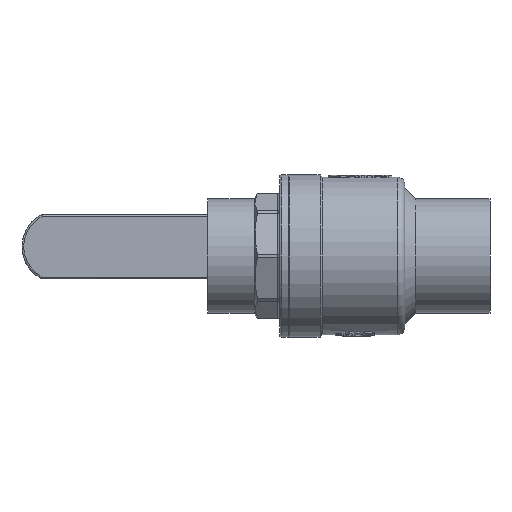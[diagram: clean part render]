
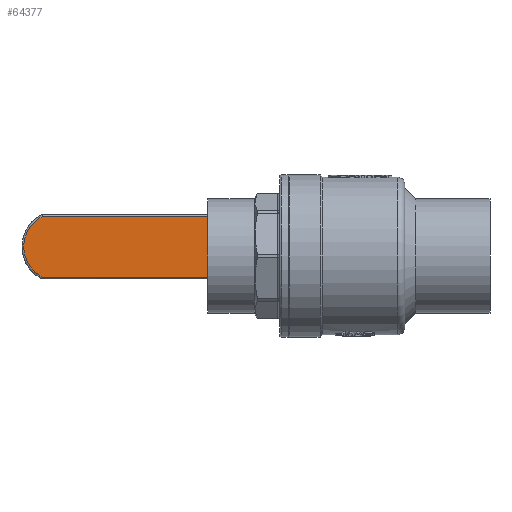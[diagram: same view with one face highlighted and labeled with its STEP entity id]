
A CAD part, front view. The second image highlights one B-rep face of the part: STEP entity #64377.
In plain terms, the highlighted planar face has unit normal (0, -1, 0).
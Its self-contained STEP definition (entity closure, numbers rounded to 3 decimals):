
#275 = CARTESIAN_POINT ( 'NONE',  ( -10.036, -5., 16.45 ) ) ;
#329 = ORIENTED_EDGE ( 'NONE', *, *, #55897, .T. ) ;
#2946 = AXIS2_PLACEMENT_3D ( 'NONE', #44037, #10163, #68804 ) ;
#5749 = CARTESIAN_POINT ( 'NONE',  ( -123.134, -5., 16.45 ) ) ;
#8092 = VECTOR ( 'NONE', #29786, 1000. ) ;
#8235 = DIRECTION ( 'NONE',  ( 0., -1., 0. ) ) ;
#8331 = ORIENTED_EDGE ( 'NONE', *, *, #39826, .T. ) ;
#10163 = DIRECTION ( 'NONE',  ( 0., 1., 0. ) ) ;
#12511 = VERTEX_POINT ( 'NONE', #275 ) ;
#12588 = CARTESIAN_POINT ( 'NONE',  ( -123.134, -5., -16.45 ) ) ;
#13949 = DIRECTION ( 'NONE',  ( 0., 0., 1. ) ) ;
#22379 = CARTESIAN_POINT ( 'NONE',  ( -10.036, -5., -16.45 ) ) ;
#23231 = CARTESIAN_POINT ( 'NONE',  ( -123.567, -5., 16.45 ) ) ;
#24748 = VERTEX_POINT ( 'NONE', #12588 ) ;
#29786 = DIRECTION ( 'NONE',  ( -1., 0., 0. ) ) ;
#30454 = VERTEX_POINT ( 'NONE', #5749 ) ;
#32441 = VECTOR ( 'NONE', #35207, 1000. ) ;
#35207 = DIRECTION ( 'NONE',  ( 1., 0., 0. ) ) ;
#36813 = VECTOR ( 'NONE', #49584, 1000. ) ;
#39590 = CIRCLE ( 'NONE', #69790, 18.5 ) ;
#39826 = EDGE_CURVE ( 'NONE', #24748, #82720, #62049, .T. ) ;
#44037 = CARTESIAN_POINT ( 'NONE',  ( -124., -5., 16.45 ) ) ;
#49584 = DIRECTION ( 'NONE',  ( 0., 0., -1. ) ) ;
#51316 = EDGE_CURVE ( 'NONE', #30454, #24748, #68400, .T. ) ;
#51595 = FACE_OUTER_BOUND ( 'NONE', #77039, .T. ) ;
#53833 = EDGE_CURVE ( 'NONE', #12511, #30454, #61131, .T. ) ;
#55897 = EDGE_CURVE ( 'NONE', #82720, #12511, #39590, .T. ) ;
#61131 = LINE ( 'NONE', #23231, #8092 ) ;
#62049 = LINE ( 'NONE', #67939, #32441 ) ;
#64377 = ADVANCED_FACE ( 'NONE', ( #51595 ), #82977, .F. ) ;
#65461 = CARTESIAN_POINT ( 'NONE',  ( -18.5, -5., 0. ) ) ;
#66808 = ORIENTED_EDGE ( 'NONE', *, *, #51316, .T. ) ;
#67939 = CARTESIAN_POINT ( 'NONE',  ( -124., -5., -16.45 ) ) ;
#68400 = LINE ( 'NONE', #82030, #36813 ) ;
#68804 = DIRECTION ( 'NONE',  ( 0., 0., 1. ) ) ;
#69790 = AXIS2_PLACEMENT_3D ( 'NONE', #65461, #8235, #13949 ) ;
#77039 = EDGE_LOOP ( 'NONE', ( #66808, #8331, #329, #83910 ) ) ;
#82030 = CARTESIAN_POINT ( 'NONE',  ( -123.134, -5., -17.45 ) ) ;
#82720 = VERTEX_POINT ( 'NONE', #22379 ) ;
#82977 = PLANE ( 'NONE',  #2946 ) ;
#83910 = ORIENTED_EDGE ( 'NONE', *, *, #53833, .T. ) ;
